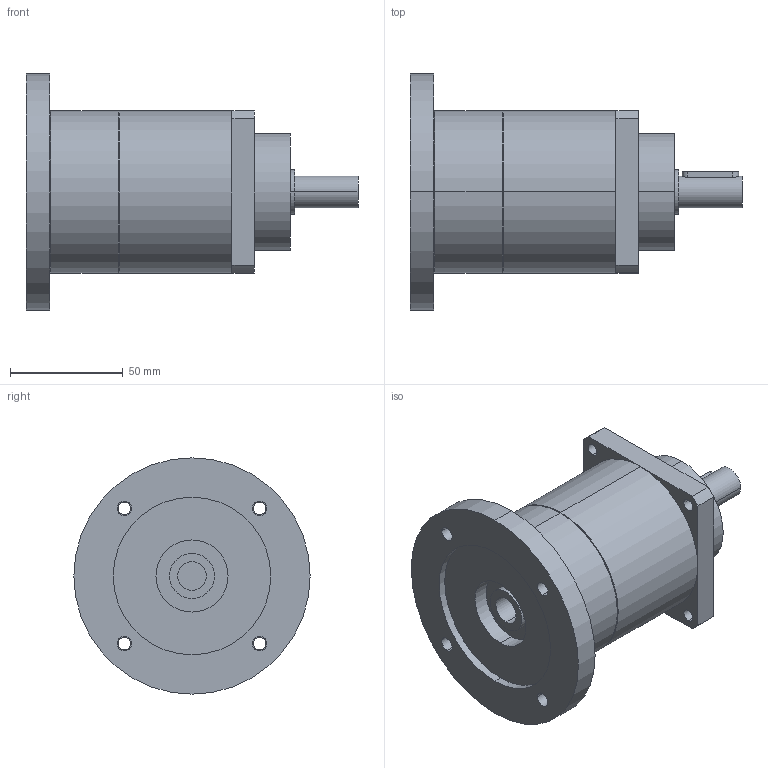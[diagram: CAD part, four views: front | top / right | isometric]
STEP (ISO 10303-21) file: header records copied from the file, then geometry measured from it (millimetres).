
FILE_DESCRIPTION(('CoCreate Modeling STEP Export'),'2;1');
FILE_NAME('GPT75_ig-9-12-16-20-25-28-35-40-50-70-100_14_B5T_12.7_P05.stp','2014-08-27T13:35:06',(''),(''),'CoCreate Modeling STEP processor for AP214 (Solid Model)','CoCreate Modeling 16.00C 25-Feb-2009 (C) Parametric Technology GmbH','');
FILE_SCHEMA(('AUTOMOTIVE_DESIGN { 1 0 10303 214 1 1 1 1 }'));
Length unit declared in the file: millimetre
Products named in the file (2): GPT75_ig-9-12-16-20-25-28-35-40-50-70-100_14_B5T_12.7_P05
Assembly tree (1 placements, depth 2):
  GPT75_ig-9-12-16-20-25-28-35-40-50-70-100_14_B5T_12.7_P05
    GPT75_ig-9-12-16-20-25-28-35-40-50-70-100_14_B5T_12.7_P05
Bounding box: 147.5 x 105 x 105 mm (x, y, z)
Volume: 486800.2 mm3; surface area: 52748.9 mm2
Topology: 1 solids, 1 shells, 71 faces, 178 edges, 119 vertices
Faces by surface type: cylinder 44, plane 23, cone 4
Entity records: 2277 total; most frequent: CARTESIAN_POINT 682, ORIENTED_EDGE 356, DIRECTION 280, EDGE_CURVE 178, VERTEX_POINT 119, AXIS2_PLACEMENT_3D 105, EDGE_LOOP 97, FACE_OUTER_BOUND 71
